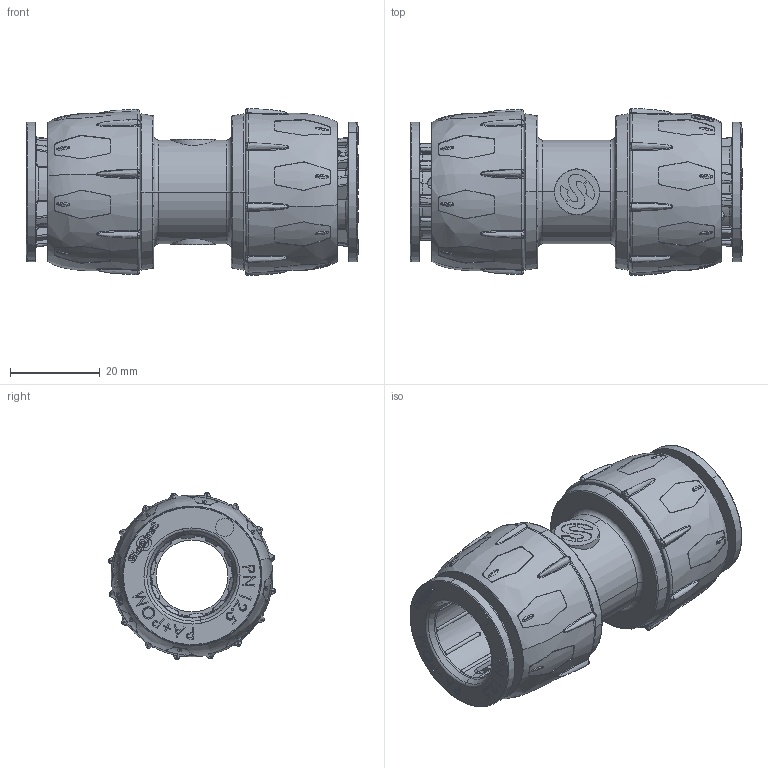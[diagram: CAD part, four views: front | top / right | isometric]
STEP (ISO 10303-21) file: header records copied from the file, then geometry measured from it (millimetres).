
FILE_DESCRIPTION (( 'STEP AP203' ), '1' );
FILE_NAME ('R210.018.000.STEP', '2024-08-01T11:50:41', ( '' ), ( '' ), 'SwSTEP 2.0', 'SolidWorks 2021', '' );
FILE_SCHEMA (( 'CONFIG_CONTROL_DESIGN' ));
Length unit declared in the file: millimetre
Products named in the file (7): R209.018.002; R209.018.003; R210.018.000; R210.018.018-L; GUARNIZIONI OR_OR-123; R209.018.001; R216.018.000
Assembly tree (11 placements, depth 2):
  R210.018.000
    R210.018.018-L
    R209.018.002  x2
    R216.018.000  x2
    R209.018.003  x2
    R209.018.001  x2
    GUARNIZIONI OR_OR-123  x2
Bounding box: 73.81 x 37.07 x 37.07 mm (x, y, z)
Volume: 33369 mm3; surface area: 35590.1 mm2
Topology: 11 solids, 11 shells, 2564 faces, 6427 edges, 4021 vertices
Faces by surface type: bspline 834, plane 740, cylinder 588, cone 174, torus 148, sphere 80
Entity records: 86411 total; most frequent: CARTESIAN_POINT 55513, ORIENTED_EDGE 7086, DIRECTION 4987, EDGE_CURVE 3543, VERTEX_POINT 2234, AXIS2_PLACEMENT_3D 1909, EDGE_LOOP 1527, FACE_OUTER_BOUND 1418
